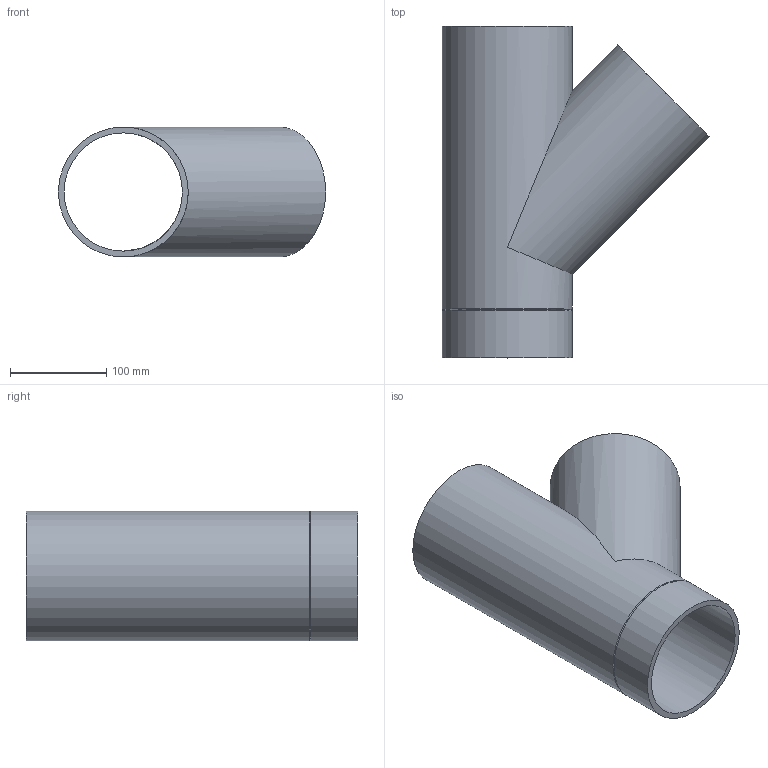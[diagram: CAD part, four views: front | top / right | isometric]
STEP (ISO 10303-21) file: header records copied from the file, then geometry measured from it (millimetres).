
FILE_DESCRIPTION(/* description */ (''),/* implementation_level */ '2;1');
FILE_NAME(/* name */ 'Z:\Geberit\Export\Export18\Abzweig Gerade_Ipart\stp\312124.stp',/* time_stamp */ '2014-08-26T21:52:32+02:00',/* author */ ('ML'),/* organization */ (''),/* preprocessor_version */ 'ST-DEVELOPER v15.2',/* originating_system */ 'Autodesk Inventor 2014',/* authorisation */ '');
FILE_SCHEMA (('AUTOMOTIVE_DESIGN { 1 0 10303 214 3 1 1 }'));
Length unit declared in the file: millimetre
Products named in the file (1): 312124
Bounding box: 277.86 x 345 x 135 mm (x, y, z)
Volume: 1115111.4 mm3; surface area: 379658.6 mm2
Topology: 1 solids, 1 shells, 10 faces, 26 edges, 18 vertices
Faces by surface type: cylinder 5, plane 3, cone 2
Full cylindrical faces by diameter (mm): 123 x2, 135 x3
Entity records: 263 total; most frequent: DIRECTION 48, CARTESIAN_POINT 37, ORIENTED_EDGE 26, AXIS2_PLACEMENT_3D 24, EDGE_LOOP 22, FACE_BOUND 17, VERTEX_POINT 13, EDGE_CURVE 13
